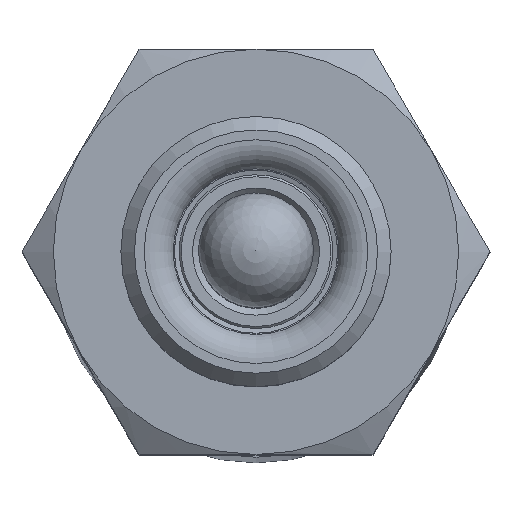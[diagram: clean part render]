
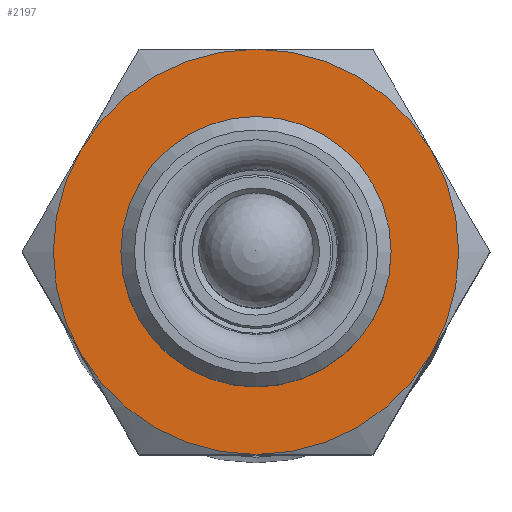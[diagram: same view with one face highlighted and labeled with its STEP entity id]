
A CAD part, top view. The second image highlights one B-rep face of the part: STEP entity #2197.
In plain terms, the highlighted planar face has unit normal (0, 0, 1) as drawn and (1, 0, 0) by its records, which use the part's own axes.
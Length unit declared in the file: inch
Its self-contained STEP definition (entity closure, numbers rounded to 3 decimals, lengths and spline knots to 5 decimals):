
#385=FACE_BOUND('',#605,.T.);
#448=FACE_OUTER_BOUND('',#604,.T.);
#604=EDGE_LOOP('',(#1507,#1508,#1509,#1510,#1511,#1512));
#605=EDGE_LOOP('',(#1513));
#793=CIRCLE('',#2463,0.25006);
#794=CIRCLE('',#2465,0.375);
#795=CIRCLE('',#2466,0.375);
#796=CIRCLE('',#2467,0.375);
#797=CIRCLE('',#2468,0.375);
#798=CIRCLE('',#2469,0.375);
#799=CIRCLE('',#2470,0.375);
#950=VERTEX_POINT('',#3571);
#951=VERTEX_POINT('',#3575);
#952=VERTEX_POINT('',#3576);
#953=VERTEX_POINT('',#3578);
#954=VERTEX_POINT('',#3580);
#955=VERTEX_POINT('',#3582);
#956=VERTEX_POINT('',#3584);
#1156=EDGE_CURVE('',#950,#950,#793,.T.);
#1158=EDGE_CURVE('',#951,#952,#794,.T.);
#1159=EDGE_CURVE('',#952,#953,#795,.T.);
#1160=EDGE_CURVE('',#953,#954,#796,.T.);
#1161=EDGE_CURVE('',#954,#955,#797,.T.);
#1162=EDGE_CURVE('',#955,#956,#798,.T.);
#1163=EDGE_CURVE('',#956,#951,#799,.T.);
#1507=ORIENTED_EDGE('',*,*,#1158,.T.);
#1508=ORIENTED_EDGE('',*,*,#1159,.T.);
#1509=ORIENTED_EDGE('',*,*,#1160,.T.);
#1510=ORIENTED_EDGE('',*,*,#1161,.T.);
#1511=ORIENTED_EDGE('',*,*,#1162,.T.);
#1512=ORIENTED_EDGE('',*,*,#1163,.T.);
#1513=ORIENTED_EDGE('',*,*,#1156,.F.);
#1977=PLANE('',#2464);
#2197=ADVANCED_FACE('',(#448,#385),#1977,.T.);
#2463=AXIS2_PLACEMENT_3D('',#3572,#2873,#2874);
#2464=AXIS2_PLACEMENT_3D('',#3574,#2876,#2877);
#2465=AXIS2_PLACEMENT_3D('',#3577,#2878,#2879);
#2466=AXIS2_PLACEMENT_3D('',#3579,#2880,#2881);
#2467=AXIS2_PLACEMENT_3D('',#3581,#2882,#2883);
#2468=AXIS2_PLACEMENT_3D('',#3583,#2884,#2885);
#2469=AXIS2_PLACEMENT_3D('',#3585,#2886,#2887);
#2470=AXIS2_PLACEMENT_3D('',#3586,#2888,#2889);
#2873=DIRECTION('center_axis',(1.,0.,0.));
#2874=DIRECTION('ref_axis',(0.,0.,1.));
#2876=DIRECTION('center_axis',(1.,0.,0.));
#2877=DIRECTION('ref_axis',(0.,0.,-1.));
#2878=DIRECTION('center_axis',(1.,0.,0.));
#2879=DIRECTION('ref_axis',(0.,1.,0.));
#2880=DIRECTION('center_axis',(1.,0.,0.));
#2881=DIRECTION('ref_axis',(0.,1.,0.));
#2882=DIRECTION('center_axis',(1.,0.,0.));
#2883=DIRECTION('ref_axis',(0.,1.,0.));
#2884=DIRECTION('center_axis',(1.,0.,0.));
#2885=DIRECTION('ref_axis',(0.,1.,0.));
#2886=DIRECTION('center_axis',(1.,0.,0.));
#2887=DIRECTION('ref_axis',(0.,1.,0.));
#2888=DIRECTION('center_axis',(1.,0.,0.));
#2889=DIRECTION('ref_axis',(0.,1.,0.));
#3571=CARTESIAN_POINT('',(0.448,0.,-0.25006));
#3572=CARTESIAN_POINT('Origin',(0.448,0.,0.));
#3574=CARTESIAN_POINT('Origin',(0.448,0.,0.));
#3575=CARTESIAN_POINT('',(0.448,-0.32476,-0.1875));
#3576=CARTESIAN_POINT('',(0.448,0.,-0.375));
#3577=CARTESIAN_POINT('Origin',(0.448,0.,0.));
#3578=CARTESIAN_POINT('',(0.448,0.32476,-0.1875));
#3579=CARTESIAN_POINT('Origin',(0.448,0.,0.));
#3580=CARTESIAN_POINT('',(0.448,0.32476,0.1875));
#3581=CARTESIAN_POINT('Origin',(0.448,0.,0.));
#3582=CARTESIAN_POINT('',(0.448,0.,0.375));
#3583=CARTESIAN_POINT('Origin',(0.448,0.,0.));
#3584=CARTESIAN_POINT('',(0.448,-0.32476,0.1875));
#3585=CARTESIAN_POINT('Origin',(0.448,0.,0.));
#3586=CARTESIAN_POINT('Origin',(0.448,0.,0.));
